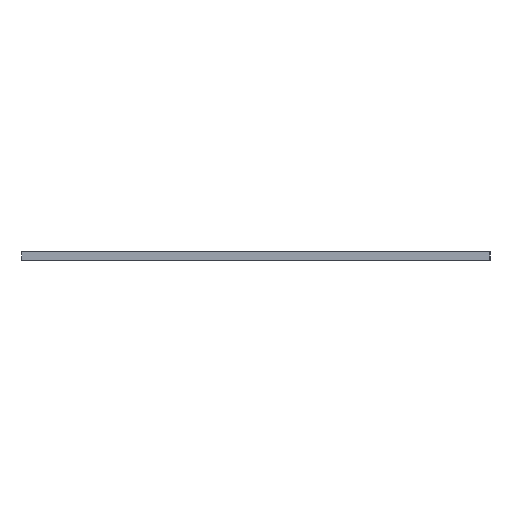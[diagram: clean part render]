
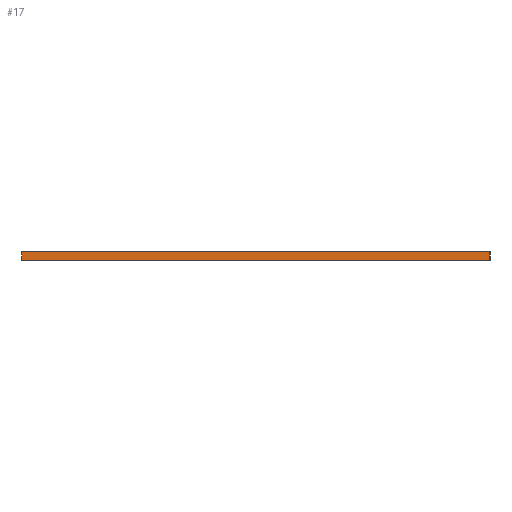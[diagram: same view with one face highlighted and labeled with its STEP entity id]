
A CAD part, left-side view. The second image highlights one B-rep face of the part: STEP entity #17.
In plain terms, the highlighted planar face has unit normal (-1, 0, 0).
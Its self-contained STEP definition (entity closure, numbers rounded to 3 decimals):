
#17 = ADVANCED_FACE('',(#18),#32,.F.);
#18 = FACE_BOUND('',#19,.F.);
#19 = EDGE_LOOP('',(#20,#55,#83,#111));
#20 = ORIENTED_EDGE('',*,*,#21,.F.);
#21 = EDGE_CURVE('',#22,#24,#26,.T.);
#22 = VERTEX_POINT('',#23);
#23 = CARTESIAN_POINT('',(-650.,-350.,-12.));
#24 = VERTEX_POINT('',#25);
#25 = CARTESIAN_POINT('',(-650.,-350.,0.));
#26 = SURFACE_CURVE('',#27,(#31,#43),.PCURVE_S1.);
#27 = LINE('',#28,#29);
#28 = CARTESIAN_POINT('',(-650.,-350.,-12.));
#29 = VECTOR('',#30,1.);
#30 = DIRECTION('',(0.,0.,1.));
#31 = PCURVE('',#32,#37);
#32 = PLANE('',#33);
#33 = AXIS2_PLACEMENT_3D('',#34,#35,#36);
#34 = CARTESIAN_POINT('',(-650.,-350.,-12.));
#35 = DIRECTION('',(1.,0.,-0.));
#36 = DIRECTION('',(0.,0.,1.));
#37 = DEFINITIONAL_REPRESENTATION('',(#38),#42);
#38 = LINE('',#39,#40);
#39 = CARTESIAN_POINT('',(0.,0.));
#40 = VECTOR('',#41,1.);
#41 = DIRECTION('',(1.,0.));
#42 = ( GEOMETRIC_REPRESENTATION_CONTEXT(2) 
PARAMETRIC_REPRESENTATION_CONTEXT() REPRESENTATION_CONTEXT('2D SPACE',''
  ) );
#43 = PCURVE('',#44,#49);
#44 = PLANE('',#45);
#45 = AXIS2_PLACEMENT_3D('',#46,#47,#48);
#46 = CARTESIAN_POINT('',(-650.,-350.,-12.));
#47 = DIRECTION('',(-0.,1.,0.));
#48 = DIRECTION('',(0.,0.,1.));
#49 = DEFINITIONAL_REPRESENTATION('',(#50),#54);
#50 = LINE('',#51,#52);
#51 = CARTESIAN_POINT('',(0.,0.));
#52 = VECTOR('',#53,1.);
#53 = DIRECTION('',(1.,0.));
#54 = ( GEOMETRIC_REPRESENTATION_CONTEXT(2) 
PARAMETRIC_REPRESENTATION_CONTEXT() REPRESENTATION_CONTEXT('2D SPACE',''
  ) );
#55 = ORIENTED_EDGE('',*,*,#56,.T.);
#56 = EDGE_CURVE('',#22,#57,#59,.T.);
#57 = VERTEX_POINT('',#58);
#58 = CARTESIAN_POINT('',(-650.,350.,-12.));
#59 = SURFACE_CURVE('',#60,(#64,#71),.PCURVE_S1.);
#60 = LINE('',#61,#62);
#61 = CARTESIAN_POINT('',(-650.,-350.,-12.));
#62 = VECTOR('',#63,1.);
#63 = DIRECTION('',(-0.,1.,0.));
#64 = PCURVE('',#32,#65);
#65 = DEFINITIONAL_REPRESENTATION('',(#66),#70);
#66 = LINE('',#67,#68);
#67 = CARTESIAN_POINT('',(0.,0.));
#68 = VECTOR('',#69,1.);
#69 = DIRECTION('',(0.,-1.));
#70 = ( GEOMETRIC_REPRESENTATION_CONTEXT(2) 
PARAMETRIC_REPRESENTATION_CONTEXT() REPRESENTATION_CONTEXT('2D SPACE',''
  ) );
#71 = PCURVE('',#72,#77);
#72 = PLANE('',#73);
#73 = AXIS2_PLACEMENT_3D('',#74,#75,#76);
#74 = CARTESIAN_POINT('',(-650.,-350.,-12.));
#75 = DIRECTION('',(0.,0.,1.));
#76 = DIRECTION('',(1.,0.,-0.));
#77 = DEFINITIONAL_REPRESENTATION('',(#78),#82);
#78 = LINE('',#79,#80);
#79 = CARTESIAN_POINT('',(0.,0.));
#80 = VECTOR('',#81,1.);
#81 = DIRECTION('',(0.,1.));
#82 = ( GEOMETRIC_REPRESENTATION_CONTEXT(2) 
PARAMETRIC_REPRESENTATION_CONTEXT() REPRESENTATION_CONTEXT('2D SPACE',''
  ) );
#83 = ORIENTED_EDGE('',*,*,#84,.T.);
#84 = EDGE_CURVE('',#57,#85,#87,.T.);
#85 = VERTEX_POINT('',#86);
#86 = CARTESIAN_POINT('',(-650.,350.,0.));
#87 = SURFACE_CURVE('',#88,(#92,#99),.PCURVE_S1.);
#88 = LINE('',#89,#90);
#89 = CARTESIAN_POINT('',(-650.,350.,-12.));
#90 = VECTOR('',#91,1.);
#91 = DIRECTION('',(0.,0.,1.));
#92 = PCURVE('',#32,#93);
#93 = DEFINITIONAL_REPRESENTATION('',(#94),#98);
#94 = LINE('',#95,#96);
#95 = CARTESIAN_POINT('',(0.,-700.));
#96 = VECTOR('',#97,1.);
#97 = DIRECTION('',(1.,0.));
#98 = ( GEOMETRIC_REPRESENTATION_CONTEXT(2) 
PARAMETRIC_REPRESENTATION_CONTEXT() REPRESENTATION_CONTEXT('2D SPACE',''
  ) );
#99 = PCURVE('',#100,#105);
#100 = PLANE('',#101);
#101 = AXIS2_PLACEMENT_3D('',#102,#103,#104);
#102 = CARTESIAN_POINT('',(-650.,350.,-12.));
#103 = DIRECTION('',(-0.,1.,0.));
#104 = DIRECTION('',(0.,0.,1.));
#105 = DEFINITIONAL_REPRESENTATION('',(#106),#110);
#106 = LINE('',#107,#108);
#107 = CARTESIAN_POINT('',(0.,0.));
#108 = VECTOR('',#109,1.);
#109 = DIRECTION('',(1.,0.));
#110 = ( GEOMETRIC_REPRESENTATION_CONTEXT(2) 
PARAMETRIC_REPRESENTATION_CONTEXT() REPRESENTATION_CONTEXT('2D SPACE',''
  ) );
#111 = ORIENTED_EDGE('',*,*,#112,.F.);
#112 = EDGE_CURVE('',#24,#85,#113,.T.);
#113 = SURFACE_CURVE('',#114,(#118,#125),.PCURVE_S1.);
#114 = LINE('',#115,#116);
#115 = CARTESIAN_POINT('',(-650.,-350.,0.));
#116 = VECTOR('',#117,1.);
#117 = DIRECTION('',(-0.,1.,0.));
#118 = PCURVE('',#32,#119);
#119 = DEFINITIONAL_REPRESENTATION('',(#120),#124);
#120 = LINE('',#121,#122);
#121 = CARTESIAN_POINT('',(12.,0.));
#122 = VECTOR('',#123,1.);
#123 = DIRECTION('',(0.,-1.));
#124 = ( GEOMETRIC_REPRESENTATION_CONTEXT(2) 
PARAMETRIC_REPRESENTATION_CONTEXT() REPRESENTATION_CONTEXT('2D SPACE',''
  ) );
#125 = PCURVE('',#126,#131);
#126 = PLANE('',#127);
#127 = AXIS2_PLACEMENT_3D('',#128,#129,#130);
#128 = CARTESIAN_POINT('',(-650.,-350.,0.));
#129 = DIRECTION('',(0.,0.,1.));
#130 = DIRECTION('',(1.,0.,-0.));
#131 = DEFINITIONAL_REPRESENTATION('',(#132),#136);
#132 = LINE('',#133,#134);
#133 = CARTESIAN_POINT('',(0.,0.));
#134 = VECTOR('',#135,1.);
#135 = DIRECTION('',(0.,1.));
#136 = ( GEOMETRIC_REPRESENTATION_CONTEXT(2) 
PARAMETRIC_REPRESENTATION_CONTEXT() REPRESENTATION_CONTEXT('2D SPACE',''
  ) );
